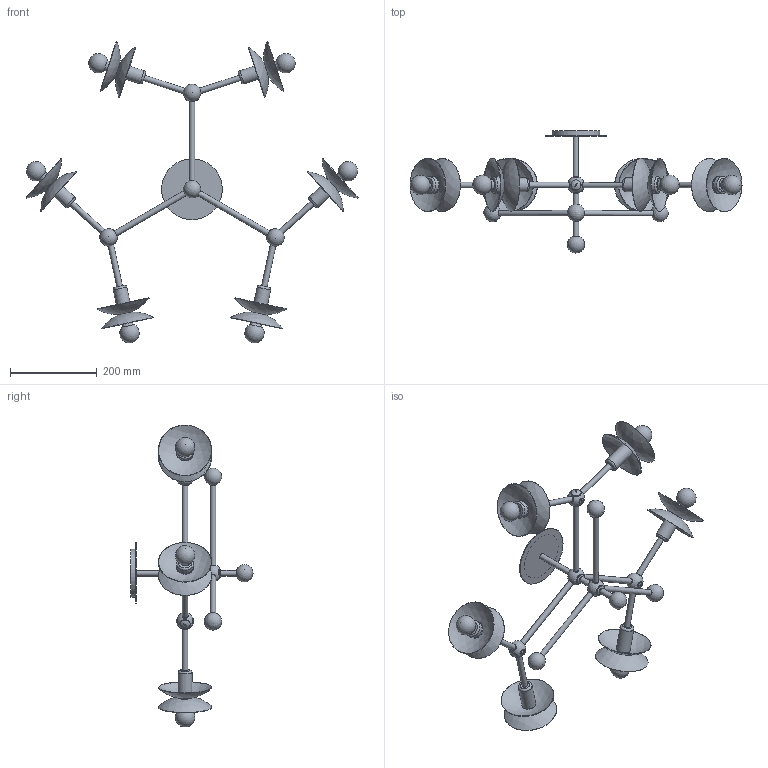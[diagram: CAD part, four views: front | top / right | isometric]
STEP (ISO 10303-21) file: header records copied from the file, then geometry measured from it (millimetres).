
FILE_DESCRIPTION(/* description */ (''),/* implementation_level */ '2;1');
FILE_NAME(/* name */ '260210_B_B771 Babylon 6.stp',/* time_stamp */ '2026-02-10T12:28:36+01:00',/* author */ ('Dominik'),/* organization */ (''),/* preprocessor_version */ 'ST-DEVELOPER v20.1',/* originating_system */ 'Autodesk Inventor 2026',/* authorisation */ '');
FILE_SCHEMA (('AUTOMOTIVE_DESIGN { 1 0 10303 214 3 1 1 }'));
Length unit declared in the file: millimetre
Products named in the file (1): B771 jako część
Bounding box: 765.35 x 281.54 x 696.04 mm (x, y, z)
Volume: 1548397.3 mm3; surface area: 579976.8 mm2
Topology: 11 solids, 11 shells, 352 faces, 701 edges, 474 vertices
Faces by surface type: cylinder 130, plane 122, sphere 56, torus 24, cone 14, bspline 6
Full cylindrical faces by diameter (mm): 11.6 x8, 11.917 x2, 12 x9, 13 x21, 13.1 x6, 13.5 x23, 23.1 x5, 23.5 x5, 28 x1, 29 x12, 32 x6, 39.5 x12, 110 x1, 140 x1
Entity records: 11262 total; most frequent: CARTESIAN_POINT 3145, DIRECTION 1778, ORIENTED_EDGE 1366, AXIS2_PLACEMENT_3D 799, EDGE_CURVE 683, EDGE_LOOP 477, VERTEX_POINT 460, CIRCLE 452
